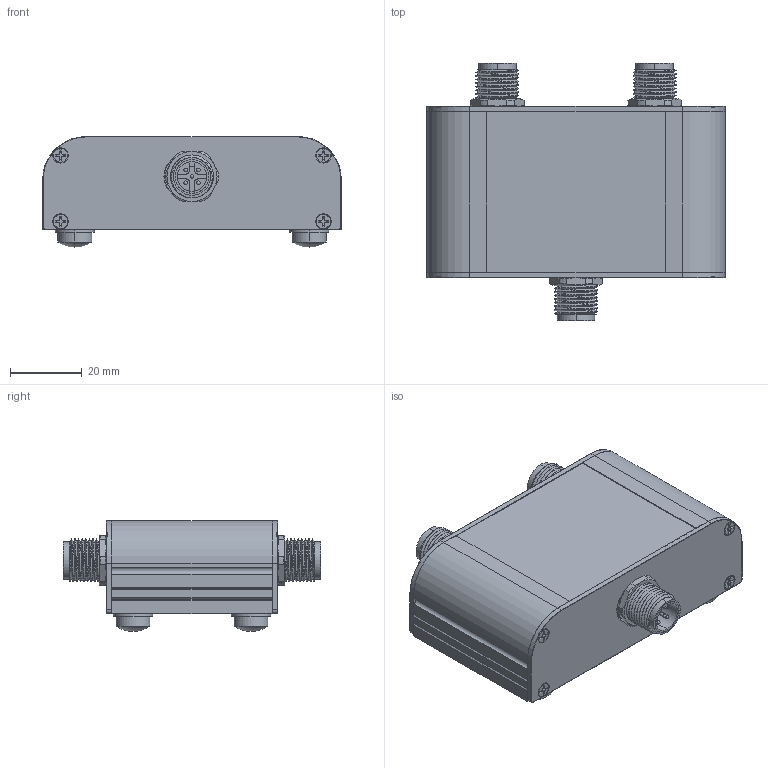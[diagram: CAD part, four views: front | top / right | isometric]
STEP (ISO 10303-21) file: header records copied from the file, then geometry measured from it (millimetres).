
FILE_DESCRIPTION (( 'STEP AP214' ), '1' );
FILE_NAME ('Sdoppiatore DOCK01 Cod 020020 Rev1.STEP', '2018-06-28T14:37:49', ( '' ), ( '' ), 'SwSTEP 2.0', 'SolidWorks 2017', '' );
FILE_SCHEMA (( 'AUTOMOTIVE_DESIGN' ));
Length unit declared in the file: millimetre
Products named in the file (1): Sdoppiatore DOCK01 Cod 020020 Rev1
Bounding box: 83.5 x 72 x 31 mm (x, y, z)
Volume: 28861.3 mm3; surface area: 44478.7 mm2
Topology: 21 solids, 21 shells, 1762 faces, 4271 edges, 2579 vertices
Faces by surface type: cylinder 708, plane 548, cone 402, bspline 66, torus 38
Entity records: 76369 total; most frequent: CARTESIAN_POINT 15421, DIRECTION 9043, ORIENTED_EDGE 8466, EDGE_CURVE 4233, AXIS2_PLACEMENT_3D 3347, VERTEX_POINT 2579, VECTOR 2349, LINE 2349
